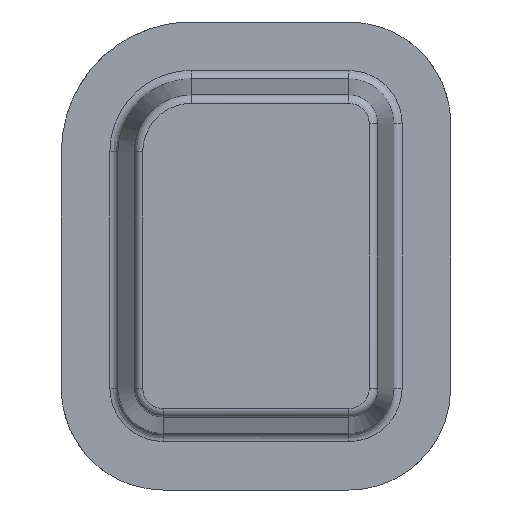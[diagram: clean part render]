
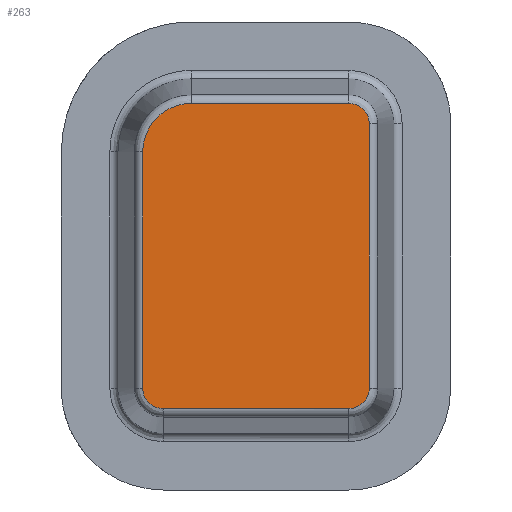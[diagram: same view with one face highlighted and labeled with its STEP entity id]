
A CAD part, front view. The second image highlights one B-rep face of the part: STEP entity #263.
In plain terms, the highlighted planar face has unit normal (0, -1, 0).
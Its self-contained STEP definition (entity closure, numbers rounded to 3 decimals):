
#144=CARTESIAN_POINT('Axis2P3D Location',(44.08,0.,55.92)) ;
#149=CARTESIAN_POINT('Line Origine',(2.749,0.,52.)) ;
#153=CARTESIAN_POINT('Vertex',(2.749,0.,94.)) ;
#155=CARTESIAN_POINT('Vertex',(2.749,0.,10.)) ;
#159=CARTESIAN_POINT('Control Point',(2.749,0.,10.)) ;
#160=CARTESIAN_POINT('Control Point',(2.749,0.,9.039)) ;
#161=CARTESIAN_POINT('Control Point',(2.908,0.,8.077)) ;
#162=CARTESIAN_POINT('Control Point',(3.227,0.,7.152)) ;
#163=CARTESIAN_POINT('Control Point',(4.157,0.,5.443)) ;
#164=CARTESIAN_POINT('Control Point',(5.588,0.,4.124)) ;
#165=CARTESIAN_POINT('Control Point',(6.408,0.,3.59)) ;
#166=CARTESIAN_POINT('Control Point',(7.598,0.,3.072)) ;
#167=CARTESIAN_POINT('Control Point',(8.859,0.,2.829)) ;
#168=CARTESIAN_POINT('Control Point',(9.178,0.,2.785)) ;
#169=CARTESIAN_POINT('Control Point',(9.534,0.,2.756)) ;
#170=CARTESIAN_POINT('Control Point',(9.891,0.,2.75)) ;
#171=CARTESIAN_POINT('Control Point',(9.927,0.,2.749)) ;
#172=CARTESIAN_POINT('Control Point',(9.964,0.,2.749)) ;
#173=CARTESIAN_POINT('Control Point',(10.,0.,2.749)) ;
#174=CARTESIAN_POINT('Vertex',(10.,0.,2.749)) ;
#177=CARTESIAN_POINT('Line Origine',(43.,0.,2.749)) ;
#181=CARTESIAN_POINT('Vertex',(76.,0.,2.749)) ;
#185=CARTESIAN_POINT('Control Point',(76.,0.,2.749)) ;
#186=CARTESIAN_POINT('Control Point',(76.961,0.,2.749)) ;
#187=CARTESIAN_POINT('Control Point',(77.923,0.,2.908)) ;
#188=CARTESIAN_POINT('Control Point',(78.848,0.,3.227)) ;
#189=CARTESIAN_POINT('Control Point',(80.557,0.,4.157)) ;
#190=CARTESIAN_POINT('Control Point',(81.876,0.,5.588)) ;
#191=CARTESIAN_POINT('Control Point',(82.41,0.,6.408)) ;
#192=CARTESIAN_POINT('Control Point',(82.928,0.,7.598)) ;
#193=CARTESIAN_POINT('Control Point',(83.171,0.,8.859)) ;
#194=CARTESIAN_POINT('Control Point',(83.215,0.,9.178)) ;
#195=CARTESIAN_POINT('Control Point',(83.244,0.,9.534)) ;
#196=CARTESIAN_POINT('Control Point',(83.25,0.,9.891)) ;
#197=CARTESIAN_POINT('Control Point',(83.251,0.,9.927)) ;
#198=CARTESIAN_POINT('Control Point',(83.251,0.,9.964)) ;
#199=CARTESIAN_POINT('Control Point',(83.251,0.,10.)) ;
#200=CARTESIAN_POINT('Vertex',(83.251,0.,10.)) ;
#203=CARTESIAN_POINT('Line Origine',(83.251,0.,57.)) ;
#207=CARTESIAN_POINT('Vertex',(83.251,0.,104.)) ;
#211=CARTESIAN_POINT('Control Point',(83.251,0.,104.)) ;
#212=CARTESIAN_POINT('Control Point',(83.251,0.,104.961)) ;
#213=CARTESIAN_POINT('Control Point',(83.092,0.,105.923)) ;
#214=CARTESIAN_POINT('Control Point',(82.773,0.,106.848)) ;
#215=CARTESIAN_POINT('Control Point',(81.843,0.,108.557)) ;
#216=CARTESIAN_POINT('Control Point',(80.412,0.,109.876)) ;
#217=CARTESIAN_POINT('Control Point',(79.592,0.,110.41)) ;
#218=CARTESIAN_POINT('Control Point',(78.402,0.,110.928)) ;
#219=CARTESIAN_POINT('Control Point',(77.141,0.,111.171)) ;
#220=CARTESIAN_POINT('Control Point',(76.822,0.,111.215)) ;
#221=CARTESIAN_POINT('Control Point',(76.466,0.,111.244)) ;
#222=CARTESIAN_POINT('Control Point',(76.109,0.,111.25)) ;
#223=CARTESIAN_POINT('Control Point',(76.072,0.,111.251)) ;
#224=CARTESIAN_POINT('Control Point',(76.036,0.,111.251)) ;
#225=CARTESIAN_POINT('Control Point',(76.,0.,111.251)) ;
#226=CARTESIAN_POINT('Vertex',(76.,0.,111.251)) ;
#229=CARTESIAN_POINT('Line Origine',(48.,0.,111.251)) ;
#233=CARTESIAN_POINT('Vertex',(20.,0.,111.251)) ;
#237=CARTESIAN_POINT('Control Point',(20.,0.,111.251)) ;
#238=CARTESIAN_POINT('Control Point',(18.077,0.,111.251)) ;
#239=CARTESIAN_POINT('Control Point',(16.154,0.,110.983)) ;
#240=CARTESIAN_POINT('Control Point',(14.282,0.,110.447)) ;
#241=CARTESIAN_POINT('Control Point',(10.736,0.,108.869)) ;
#242=CARTESIAN_POINT('Control Point',(7.758,0.,106.383)) ;
#243=CARTESIAN_POINT('Control Point',(6.451,0.,104.938)) ;
#244=CARTESIAN_POINT('Control Point',(4.493,0.,102.045)) ;
#245=CARTESIAN_POINT('Control Point',(3.313,0.,98.768)) ;
#246=CARTESIAN_POINT('Control Point',(2.954,0.,97.259)) ;
#247=CARTESIAN_POINT('Control Point',(2.762,0.,95.685)) ;
#248=CARTESIAN_POINT('Control Point',(2.749,0.,94.109)) ;
#249=CARTESIAN_POINT('Control Point',(2.749,0.,94.073)) ;
#250=CARTESIAN_POINT('Control Point',(2.749,0.,94.036)) ;
#251=CARTESIAN_POINT('Control Point',(2.749,0.,94.)) ;
#145=DIRECTION('Axis2P3D Direction',(0.,-1.,0.)) ;
#146=DIRECTION('Axis2P3D XDirection',(0.099,0.,0.995)) ;
#150=DIRECTION('Vector Direction',(0.,0.,1.)) ;
#178=DIRECTION('Vector Direction',(1.,0.,0.)) ;
#204=DIRECTION('Vector Direction',(0.,0.,1.)) ;
#230=DIRECTION('Vector Direction',(-1.,0.,0.)) ;
#147=AXIS2_PLACEMENT_3D('Plane Axis2P3D',#144,#145,#146) ;
#254=ORIENTED_EDGE('',*,*,#157,.T.) ;
#255=ORIENTED_EDGE('',*,*,#176,.T.) ;
#256=ORIENTED_EDGE('',*,*,#183,.T.) ;
#257=ORIENTED_EDGE('',*,*,#202,.T.) ;
#258=ORIENTED_EDGE('',*,*,#209,.T.) ;
#259=ORIENTED_EDGE('',*,*,#228,.T.) ;
#260=ORIENTED_EDGE('',*,*,#235,.T.) ;
#261=ORIENTED_EDGE('',*,*,#252,.T.) ;
#151=VECTOR('Line Direction',#150,1.) ;
#179=VECTOR('Line Direction',#178,1.) ;
#205=VECTOR('Line Direction',#204,1.) ;
#231=VECTOR('Line Direction',#230,1.) ;
#263=ADVANCED_FACE('base',(#262),#148,.T.) ;
#158=B_SPLINE_CURVE_WITH_KNOTS('',5,(#159,#160,#161,#162,#163,#164,#165,#166,#167,#168,#169,#170,#171,#172,#173),.UNSPECIFIED.,.F.,.U.,(6,3,3,3,6),(28.149,38.282,48.42,51.799,52.182),.UNSPECIFIED.) ;
#184=B_SPLINE_CURVE_WITH_KNOTS('',5,(#185,#186,#187,#188,#189,#190,#191,#192,#193,#194,#195,#196,#197,#198,#199),.UNSPECIFIED.,.F.,.U.,(6,3,3,3,6),(28.15,38.283,48.421,51.8,52.182),.UNSPECIFIED.) ;
#210=B_SPLINE_CURVE_WITH_KNOTS('',5,(#211,#212,#213,#214,#215,#216,#217,#218,#219,#220,#221,#222,#223,#224,#225),.UNSPECIFIED.,.F.,.U.,(6,3,3,3,6),(28.149,38.282,48.42,51.799,52.181),.UNSPECIFIED.) ;
#236=B_SPLINE_CURVE_WITH_KNOTS('',5,(#237,#238,#239,#240,#241,#242,#243,#244,#245,#246,#247,#248,#249,#250,#251),.UNSPECIFIED.,.F.,.U.,(6,3,3,3,6),(40.186,56.345,72.524,85.459,85.765),.UNSPECIFIED.) ;
#157=EDGE_CURVE('',#154,#156,#152,.F.) ;
#176=EDGE_CURVE('',#156,#175,#158,.T.) ;
#183=EDGE_CURVE('',#175,#182,#180,.T.) ;
#202=EDGE_CURVE('',#182,#201,#184,.T.) ;
#209=EDGE_CURVE('',#201,#208,#206,.T.) ;
#228=EDGE_CURVE('',#208,#227,#210,.T.) ;
#235=EDGE_CURVE('',#227,#234,#232,.T.) ;
#252=EDGE_CURVE('',#234,#154,#236,.T.) ;
#253=EDGE_LOOP('',(#254,#255,#256,#257,#258,#259,#260,#261)) ;
#262=FACE_OUTER_BOUND('',#253,.T.) ;
#152=LINE('Line',#149,#151) ;
#180=LINE('Line',#177,#179) ;
#206=LINE('Line',#203,#205) ;
#232=LINE('Line',#229,#231) ;
#148=PLANE('',#147) ;
#154=VERTEX_POINT('',#153) ;
#156=VERTEX_POINT('',#155) ;
#175=VERTEX_POINT('',#174) ;
#182=VERTEX_POINT('',#181) ;
#201=VERTEX_POINT('',#200) ;
#208=VERTEX_POINT('',#207) ;
#227=VERTEX_POINT('',#226) ;
#234=VERTEX_POINT('',#233) ;
